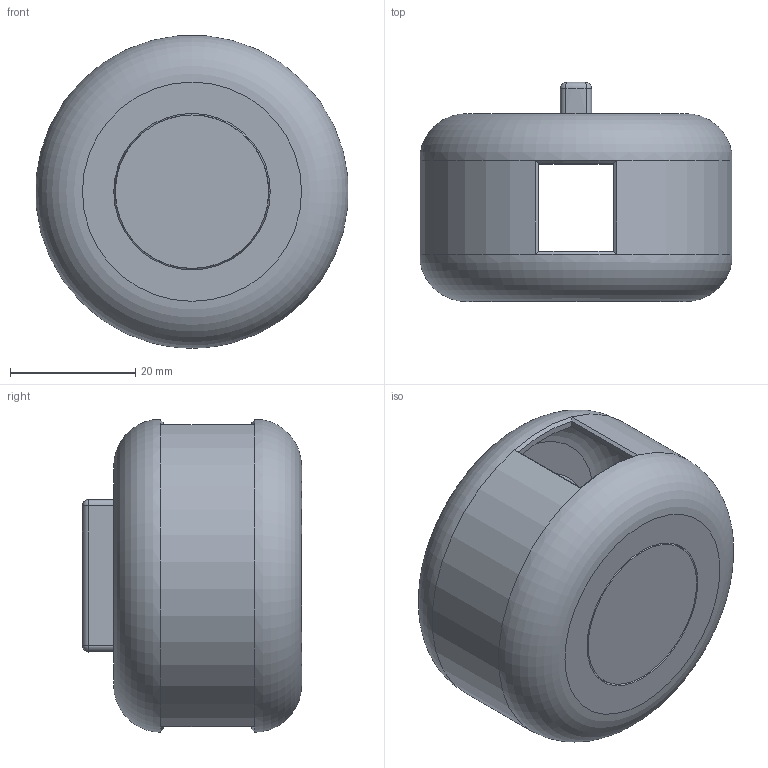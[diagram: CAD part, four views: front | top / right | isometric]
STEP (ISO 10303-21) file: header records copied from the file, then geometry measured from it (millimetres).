
FILE_DESCRIPTION(/* description */ (''),/* implementation_level */ '2;1');
FILE_NAME(/* name */ 'C:/Users/stuar/Desktop/Step files/cable winder v2.step',/* time_stamp */ '2021-01-13T20:02:04+11:00',/* author */ (''),/* organization */ (''),/* preprocessor_version */ 'ST-DEVELOPER v18.1',/* originating_system */ 'Autodesk Translation Framework v9.7.1.1290',/* authorisation */ '');
FILE_SCHEMA (('AUTOMOTIVE_DESIGN { 1 0 10303 214 3 1 1 }'));
Length unit declared in the file: millimetre
Products named in the file (1): (Unsaved)
Bounding box: 49.81 x 35 x 49.9 mm (x, y, z)
Volume: 15831.7 mm3; surface area: 15850.2 mm2
Topology: 2 solids, 2 shells, 79 faces, 212 edges, 135 vertices
Faces by surface type: plane 27, bspline 16, cylinder 13, torus 12, cone 7, sphere 4
Full cylindrical faces by diameter (mm): 24.5 x2, 25 x2, 47 x1
Entity records: 4465 total; most frequent: CARTESIAN_POINT 2533, ORIENTED_EDGE 424, DIRECTION 363, EDGE_CURVE 212, AXIS2_PLACEMENT_3D 152, VERTEX_POINT 135, CIRCLE 86, EDGE_LOOP 85
